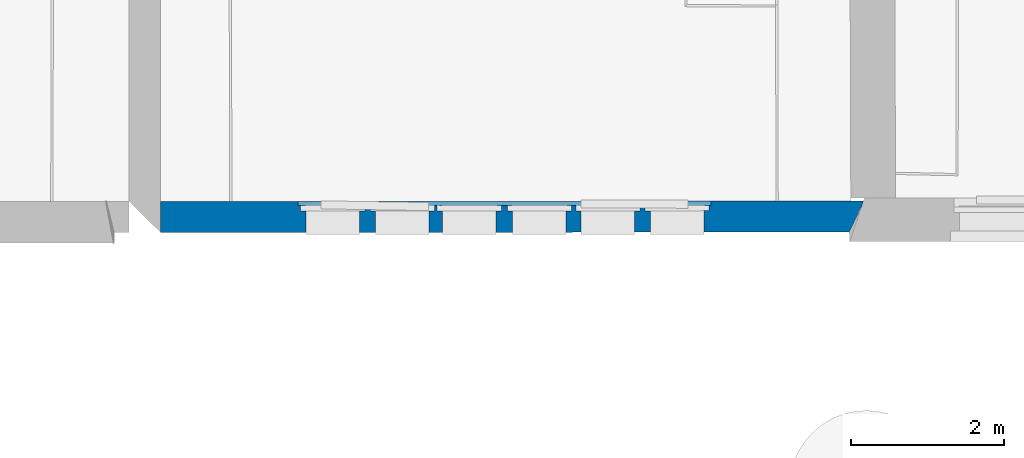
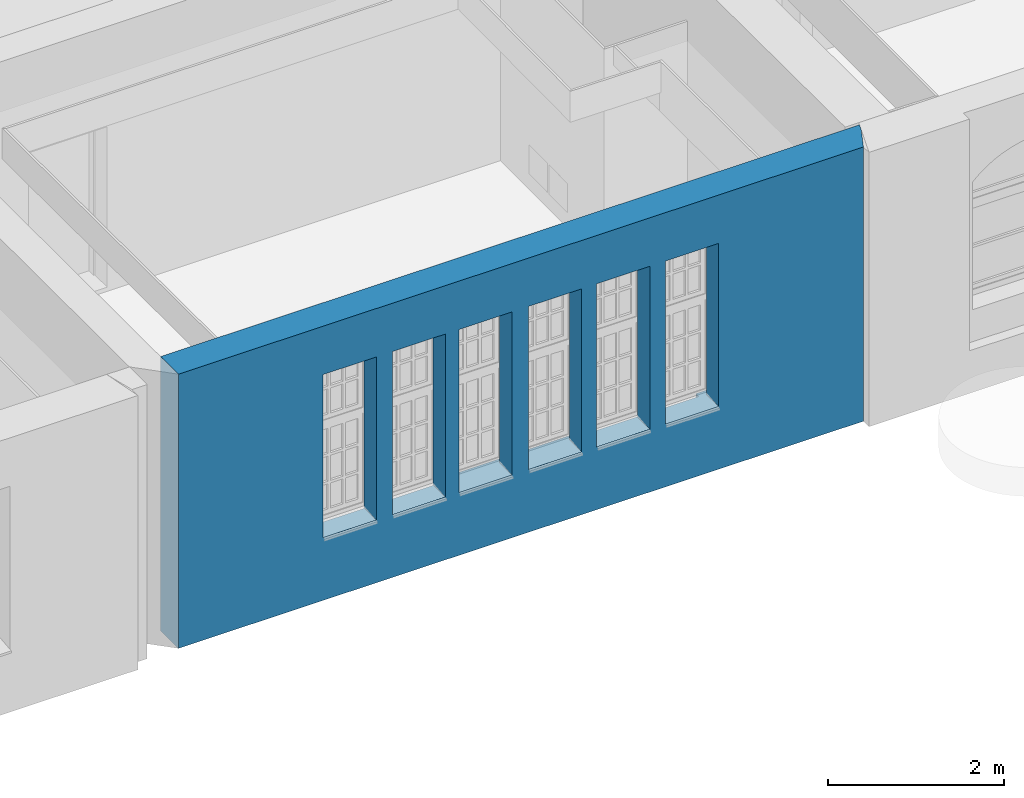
# One storey, part 63 of 158: 1 wall, 9 openings.
"""IFC2X3 building model written with IfcOpenShell, lengths in metres."""

from ifc_helpers import new_model, entity, si_unit, converted_unit, derived_unit, money_unit, direction, frame, origin_with_axes, origin_2d_with_axis, place, context, subcontext, project, spatial, polyline, rectangle, outline, extrude, boolean, faceted_brep, material, type_object, element, save


model = new_model("IFC2X3")

# Units and contexts
model_context = context("Model", 3, precision=1e-05, world=origin_with_axes(), true_north=direction((0.0, 1.0)))
body_context = subcontext(model_context, "Body", "Model", "MODEL_VIEW")
ifc_project = project(units=[si_unit("LENGTHUNIT", "METRE"), si_unit("AREAUNIT", "SQUARE_METRE"), si_unit("VOLUMEUNIT", "CUBIC_METRE"), converted_unit("PLANEANGLEUNIT", "DEGREE", entity("IfcPlaneAngleMeasure", 0.0174532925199), si_unit("PLANEANGLEUNIT", "RADIAN"), dimensions=[0, 0, 0, 0, 0, 0, 0]), money_unit("EUR"), converted_unit("TIMEUNIT", "Year", entity("IfcTimeMeasure", 31556926.0), si_unit("TIMEUNIT", "SECOND"), dimensions=[0, 0, 1, 0, 0, 0, 0]), si_unit("MASSUNIT", "GRAM", prefix="KILO"), si_unit("THERMODYNAMICTEMPERATUREUNIT", "DEGREE_CELSIUS"), si_unit("LUMINOUSINTENSITYUNIT", "LUMEN"), si_unit("ENERGYUNIT", "JOULE", prefix="MEGA"), derived_unit("THERMALCONDUCTANCEUNIT", [(si_unit("POWERUNIT", "WATT"), 1), (si_unit("LENGTHUNIT", "METRE"), -1), (si_unit("THERMODYNAMICTEMPERATUREUNIT", "KELVIN"), -1)]), derived_unit("SPECIFICHEATCAPACITYUNIT", [(si_unit("ENERGYUNIT", "JOULE"), 1), (si_unit("MASSUNIT", "GRAM", prefix="KILO"), -1), (si_unit("THERMODYNAMICTEMPERATUREUNIT", "KELVIN"), -1)]), derived_unit("MASSDENSITYUNIT", [(si_unit("MASSUNIT", "GRAM", prefix="KILO"), 1), (si_unit("VOLUMEUNIT", "CUBIC_METRE"), -1)])], contexts=[model_context])

# Site, building, storey
site_placement = place(None, origin_with_axes())
site = spatial("IfcSite", under=ifc_project, at=site_placement, Name="Gelände", CompositionType="ELEMENT")
building_placement = place(site_placement, origin_with_axes())
building = spatial("IfcBuilding", under=site, at=building_placement, Name="Gebäude", CompositionType="ELEMENT")
storey_placement = place(building_placement, origin_with_axes())
storey = spatial("IfcBuildingStorey", under=building, at=storey_placement, Name="ERDGESCHOSS", CompositionType="ELEMENT", Elevation=0.0)

# Wall, openings
ifc_material = material(Name="05_ALLGEMEIN - TRAGENDE BAUTEILE")
wall_type = type_object("IfcWallType", Name="05_ALLGEMEIN - TRAGENDE BAUTEILE 405", PredefinedType="ELEMENTEDWALL")
wall_placement = place(storey_placement, frame((12.5578414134, 10.0083609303, -0.21), z_axis=(0.0, 0.0, 1.0), x_axis=(0.99999979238, 0.000644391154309, 0.0)))
wall = element("IfcWall", 1, at=wall_placement, inside=storey, type_object=wall_type, material=ifc_material, Name="Wand-034", ObjectType="ELEMENTEDWALL", context=body_context, shape_type="CSG", body=[
    boolean("DIFFERENCE", boolean("DIFFERENCE", extrude(outline(polyline([(-0.000108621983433, 0.0), (9.61636200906, 0.0), (9.61636200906, 0.405), (-0.000108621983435, 0.405), (-0.000108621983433, 0.0)])), origin_with_axes(), (0.0, 0.0, 1.0), 3.81), faceted_brep([(0.410000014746, 0.0, 0.0), (0.410000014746, 0.0, 3.81), (-0.000108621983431, 0.0, 3.81), (-0.000108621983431, 0.0, 0.0), (0.409891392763, 0.405, 3.81), (0.409891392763, 0.405, 0.0), (-0.000108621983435, 0.405, 3.81), (-0.000108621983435, 0.405, 0.0)], [[[0, 1, 2, 3]], [[4, 1, 0, 5]], [[1, 4, 6, 2]], [[6, 7, 3, 2]], [[5, 0, 3, 7]], [[4, 5, 7, 6]]])), faceted_brep([(9.59895239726, 0.405, 0.0), (9.59895239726, 0.405, 3.81), (9.61636200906, 0.405, 3.81), (9.61636200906, 0.405, 0.0), (9.5658307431, 0.308184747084, 3.81), (9.5658307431, 0.308184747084, 0.0), (9.41635422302, 0.0, 3.81), (9.61636200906, 0.0, 3.81), (9.61636200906, 0.0, 0.0), (9.41635422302, 0.0, 0.0)], [[[0, 1, 2, 3]], [[4, 1, 0, 5]], [[4, 6, 7, 2, 1]], [[7, 8, 3, 2]], [[5, 0, 3, 8, 9]], [[6, 4, 5, 9]], [[6, 9, 8, 7]]])),
])
opening_1_placement = place(wall_placement, frame((2.66200439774, 0.0, 0.871267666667), z_axis=(0.0, 0.0, 1.0), x_axis=(1.0, 0.0, 0.0)))
element("IfcOpeningElement", 2, at=opening_1_placement, cuts=wall, Name="Fenster-015", context=body_context, shape_type="SweptSolid", body=[
    extrude(rectangle(XDim=0.700207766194, YDim=2.266332, at=origin_2d_with_axis()), frame((0.0, 0.28, 1.133166), z_axis=(0.0, 1.0, 0.0), x_axis=(1.0, 0.0, 0.0)), (0.0, 0.0, -1.0), 0.685),
    extrude(rectangle(XDim=0.840207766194, YDim=2.336332, at=origin_2d_with_axis()), frame((0.0, 0.28, 1.168166), z_axis=(0.0, -1.0, 0.0), x_axis=(1.0, 0.0, 0.0)), (0.0, 0.0, -1.0), 0.53),
])
opening_2_placement = place(wall_placement, frame((4.90615090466, 0.0, 0.13), z_axis=(0.0, 0.0, 1.0), x_axis=(1.0, 0.0, 0.0)))
element("IfcOpeningElement", 3, at=opening_2_placement, cuts=wall, Name="Fenster-017", ObjectType="Recess", context=body_context, shape_type="SweptSolid", body=[
    extrude(rectangle(XDim=5.40118313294, YDim=3.07759966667, at=origin_2d_with_axis()), frame((0.0, 0.350558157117, 1.53879983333), z_axis=(0.0, 1.0, 0.0), x_axis=(-1.0, 0.0, 0.0)), (0.0, 0.0, 1.0), 0.459441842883),
])
opening_3_placement = place(wall_placement, frame((3.20697663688, 0.0, 0.13), z_axis=(0.0, 0.0, 1.0), x_axis=(1.0, 0.0, 0.0)))
element("IfcOpeningElement", 4, at=opening_3_placement, cuts=wall, Name="Fenster-017", ObjectType="Recess", context=body_context, shape_type="SweptSolid", body=[
    extrude(rectangle(XDim=1.69931947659, YDim=0.741267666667, at=origin_2d_with_axis()), frame((0.0, 0.270884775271, 0.370633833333), z_axis=(0.0, 1.0, 0.0), x_axis=(1.0, 0.0, 0.0)), (0.0, 0.0, 1.0), 0.539115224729),
])
opening_4_placement = place(wall_placement, frame((6.60078618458, 0.0, 0.13), z_axis=(0.0, 0.0, 1.0), x_axis=(1.0, 0.0, 0.0)))
element("IfcOpeningElement", 5, at=opening_4_placement, cuts=wall, Name="Fenster-017", ObjectType="Recess", context=body_context, shape_type="SweptSolid", body=[
    extrude(rectangle(XDim=1.6324007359, YDim=0.741267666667, at=origin_2d_with_axis()), frame((0.0, 0.285446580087, 0.370633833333), z_axis=(0.0, 1.0, 0.0), x_axis=(1.0, 0.0, 0.0)), (0.0, 0.0, 1.0), 0.524553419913),
])
opening_5_placement = place(wall_placement, frame((3.57184815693, 0.0, 0.871267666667), z_axis=(0.0, 0.0, 1.0), x_axis=(1.0, 0.0, 0.0)))
element("IfcOpeningElement", 6, at=opening_5_placement, cuts=wall, Name="Fenster-015", context=body_context, shape_type="SweptSolid", body=[
    extrude(rectangle(XDim=0.700207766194, YDim=2.266332, at=origin_2d_with_axis()), frame((0.0, 0.28, 1.133166), z_axis=(0.0, 1.0, 0.0), x_axis=(1.0, 0.0, 0.0)), (0.0, 0.0, -1.0), 0.685),
    extrude(rectangle(XDim=0.840207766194, YDim=2.336332, at=origin_2d_with_axis()), frame((0.0, 0.28, 1.168166), z_axis=(0.0, -1.0, 0.0), x_axis=(1.0, 0.0, 0.0)), (0.0, 0.0, -1.0), 0.53),
])
opening_6_placement = place(wall_placement, frame((4.44643997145, 0.0, 0.871267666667), z_axis=(0.0, 0.0, 1.0), x_axis=(1.0, 0.0, 0.0)))
element("IfcOpeningElement", 7, at=opening_6_placement, cuts=wall, Name="Fenster-015", context=body_context, shape_type="SweptSolid", body=[
    extrude(rectangle(XDim=0.700207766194, YDim=2.266332, at=origin_2d_with_axis()), frame((0.0, 0.28, 1.133166), z_axis=(0.0, 1.0, 0.0), x_axis=(1.0, 0.0, 0.0)), (0.0, 0.0, -1.0), 0.685),
    extrude(rectangle(XDim=0.840207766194, YDim=2.336332, at=origin_2d_with_axis()), frame((0.0, 0.28, 1.168166), z_axis=(0.0, -1.0, 0.0), x_axis=(1.0, 0.0, 0.0)), (0.0, 0.0, -1.0), 0.53),
])
opening_7_placement = place(wall_placement, frame((5.36241637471, 0.0, 0.871267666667), z_axis=(0.0, 0.0, 1.0), x_axis=(1.0, 0.0, 0.0)))
element("IfcOpeningElement", 8, at=opening_7_placement, cuts=wall, Name="Fenster-015", context=body_context, shape_type="SweptSolid", body=[
    extrude(rectangle(XDim=0.700207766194, YDim=2.266332, at=origin_2d_with_axis()), frame((0.0, 0.28, 1.133166), z_axis=(0.0, 1.0, 0.0), x_axis=(1.0, 0.0, 0.0)), (0.0, 0.0, -1.0), 0.685),
    extrude(rectangle(XDim=0.840207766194, YDim=2.336332, at=origin_2d_with_axis()), frame((0.0, 0.28, 1.168166), z_axis=(0.0, -1.0, 0.0), x_axis=(1.0, 0.0, 0.0)), (0.0, 0.0, -1.0), 0.53),
])
opening_8_placement = place(wall_placement, frame((6.25857515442, 0.0, 0.871267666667), z_axis=(0.0, 0.0, 1.0), x_axis=(1.0, 0.0, 0.0)))
element("IfcOpeningElement", 9, at=opening_8_placement, cuts=wall, Name="Fenster-015", context=body_context, shape_type="SweptSolid", body=[
    extrude(rectangle(XDim=0.700207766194, YDim=2.266332, at=origin_2d_with_axis()), frame((0.0, 0.28, 1.133166), z_axis=(0.0, 1.0, 0.0), x_axis=(1.0, 0.0, 0.0)), (0.0, 0.0, -1.0), 0.685),
    extrude(rectangle(XDim=0.840207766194, YDim=2.336332, at=origin_2d_with_axis()), frame((0.0, 0.28, 1.168166), z_axis=(0.0, -1.0, 0.0), x_axis=(1.0, 0.0, 0.0)), (0.0, 0.0, -1.0), 0.53),
])
opening_9_placement = place(wall_placement, frame((7.16222382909, 0.0, 0.871267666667), z_axis=(0.0, 0.0, 1.0), x_axis=(1.0, 0.0, 0.0)))
element("IfcOpeningElement", 10, at=opening_9_placement, cuts=wall, Name="Fenster-015", context=body_context, shape_type="SweptSolid", body=[
    extrude(rectangle(XDim=0.700207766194, YDim=2.266332, at=origin_2d_with_axis()), frame((0.0, 0.28, 1.133166), z_axis=(0.0, 1.0, 0.0), x_axis=(1.0, 0.0, 0.0)), (0.0, 0.0, -1.0), 0.685),
    extrude(rectangle(XDim=0.840207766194, YDim=2.336332, at=origin_2d_with_axis()), frame((0.0, 0.28, 1.168166), z_axis=(0.0, -1.0, 0.0), x_axis=(1.0, 0.0, 0.0)), (0.0, 0.0, -1.0), 0.53),
])

save(model, "model.ifc")
